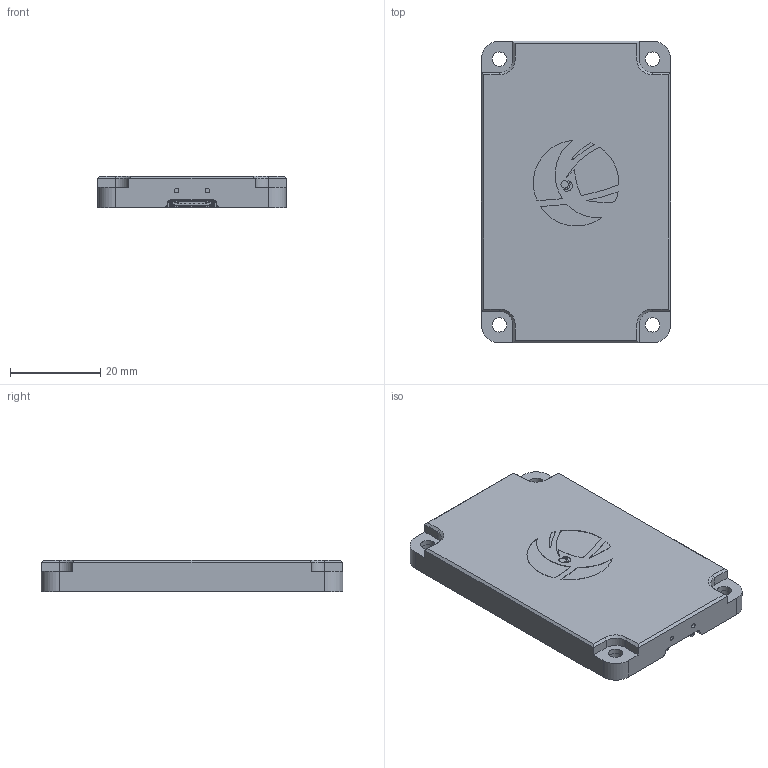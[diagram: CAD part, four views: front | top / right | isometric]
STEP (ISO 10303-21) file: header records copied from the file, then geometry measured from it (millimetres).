
FILE_DESCRIPTION(/* description */ ('Unknown'),/* implementation_level */ '2;1');
FILE_NAME(/* name */ 'SM-EDI-AS-0029_1.0_EDDIE Assembly',/* time_stamp */ '2025-03-28T14:49:43+01:00',/* author */ ('Unknown'),/* organization */ ('Unknown'),/* preprocessor_version */ 'ST-DEVELOPER v20',/* originating_system */ 'Solid Edge',/* authorisation */ 'Unknown');
FILE_SCHEMA (('AUTOMOTIVE_DESIGN {1 0 10303 214 3 1 1}'));
Products named in the file (32): Eddie_obc_msp430_V4a_low_detail; Crystal_ECX-32; SOLID; CFPX-217; SOLID_0; QFN-28-1EP_6x6mm_P0.65mm_EP4.25x4.25mm; SOLID_2; SOIC-8_3.9x4.9mm_P1.27mm; SOLID_6; D_SOD-323; SOLID_7; LQFP-80_12x12mm_P0.5mm; SOLID_8; SOIC-8_5.275x5.275mm_P1.27mm; SOLID_10; LED_0603_1608Metric; SOLID_11; 595D_B; SOLID_12; LGA-14_3x2.5mm_P0.5mm_LayoutBorder3x4y; SOLID_13; LGA-16_3x3mm_P0.5mm; SOLID_14; SOT-23-6; SOLID_15; Molex_SlimStack_556500688; SOLID_16; Molex_Pico-Lock_6_1mm; SOLID_17; _autosave-obc_msp430_V4a PCB; cover_OBC_msp430_V4; Screw_M1.4x3
Assembly tree (47 placements, depth 3):
  Eddie_obc_msp430_V4a_low_detail
    Crystal_ECX-32
      SOLID
    CFPX-217
      SOLID_0
    QFN-28-1EP_6x6mm_P0.65mm_EP4.25x4.25mm
      SOLID_2
    SOIC-8_3.9x4.9mm_P1.27mm  x2
      SOLID_6
    D_SOD-323  x2
      SOLID_7
    LQFP-80_12x12mm_P0.5mm
      SOLID_8
    SOIC-8_5.275x5.275mm_P1.27mm  x6
      SOLID_10
    LED_0603_1608Metric  x2
      SOLID_11
    595D_B  x2
      SOLID_12
    LGA-14_3x2.5mm_P0.5mm_LayoutBorder3x4y
      SOLID_13
    LGA-16_3x3mm_P0.5mm
      SOLID_14
    SOT-23-6
      SOLID_15
    Molex_SlimStack_556500688
      SOLID_16
    Molex_Pico-Lock_6_1mm
      SOLID_17
    _autosave-obc_msp430_V4a PCB
    cover_OBC_msp430_V4
    Screw_M1.4x3  x8
Bounding box: 42 x 67 x 7 mm (x, y, z)
Volume: 9536.6 mm3; surface area: 16179.9 mm2
Topology: 33 solids, 33 shells, 6093 faces, 17559 edges, 11360 vertices
Faces by surface type: plane 4891, cylinder 1110, torus 36, cone 24, bspline 16, sphere 16
Full cylindrical faces by diameter (mm): 0.2 x1, 0.35 x1, 0.381 x2, 0.4 x1, 0.5 x2, 0.6 x8, 1 x2, 1.1 x8, 1.4 x8, 1.5 x8, 1.662 x1, 2.75 x8, 3.2 x8
Entity records: 203838 total; most frequent: CARTESIAN_POINT 33268, ORIENTED_EDGE 29436, DIRECTION 26536, EDGE_CURVE 14718, LINE 12938, VECTOR 12938, VERTEX_POINT 9588, AXIS2_PLACEMENT_3D 6799
